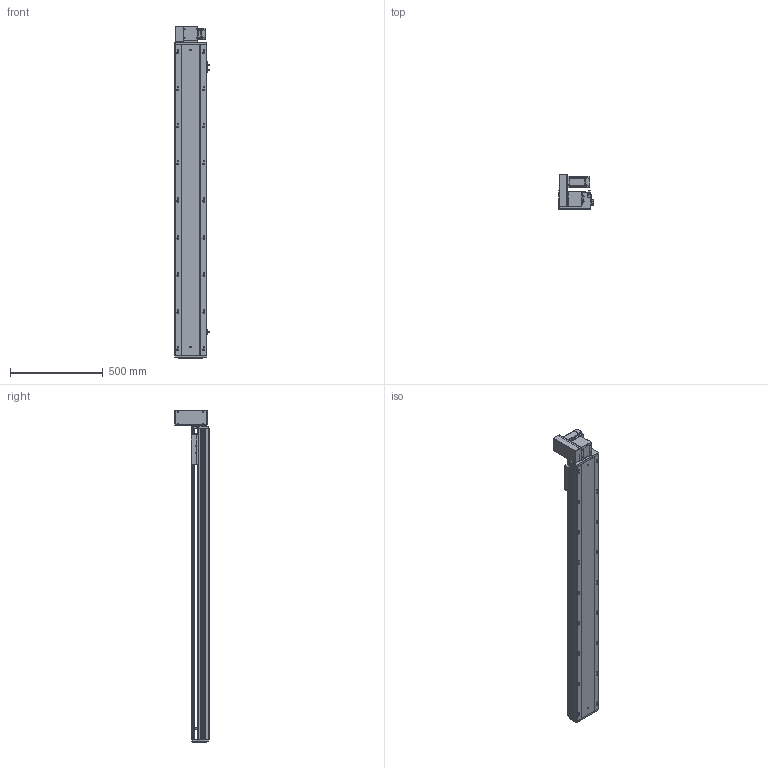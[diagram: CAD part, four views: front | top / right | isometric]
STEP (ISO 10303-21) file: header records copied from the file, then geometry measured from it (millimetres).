
FILE_DESCRIPTION (( 'STEP AP203' ), '1' );
FILE_NAME ('RY170-T-300-UL-P400W.SLDASM_1400.step', '2021-03-02T02:13:26', ( '盈信电脑' ), ( '东莞市道滘镇水果街19号' ), 'SwSTEP 2.0', 'SolidWorks 2012', '' );
FILE_SCHEMA (( 'CONFIG_CONTROL_DESIGN' ));
Length unit declared in the file: millimetre
Products named in the file (18): RY170-T肮祭湍揤踡輸1; 15; RY170-T-300-UL-P400W.SLDASM_1400; RY170-T蹟翐M4; RY170同步轮电机安装板(400W); 滅袉蝶18-10; RY170肮祭謫萇儂欶; RY120-T主同步轮轴承压盖; RY170-T肮祭湍揤踡輸2; RY170-T肮祭謫裔啣; RY170外置感应片(200共用）; RY170肮祭謫ヶ裔啣; RY170翋肮祭謫釱; 覜茼ん672; RY170綴裔啣; RY170-T-300肮祭謫倰第裔啣-DL_1400; RY170肮祭湍臏賑輸; RY170-T-300肮祭謫倰第菁釱-DL_1400
Assembly tree (20 placements, depth 2):
  RY170-T-300-UL-P400W.SLDASM_1400
    RY170-T-300肮祭謫倰第菁釱-DL_1400
    RY170肮祭湍臏賑輸
    RY170-T-300肮祭謫倰第裔啣-DL_1400
    RY170綴裔啣
    覜茼ん672  x3
    RY170外置感应片(200共用）
    RY170肮祭謫ヶ裔啣
    RY170翋肮祭謫釱
    RY170-T肮祭湍揤踡輸1
    RY170-T肮祭湍揤踡輸2
    RY170-T肮祭謫裔啣
    滅袉蝶18-10  x2
    RY120-T主同步轮轴承压盖
    RY170肮祭謫萇儂欶
    RY170同步轮电机安装板(400W)
    RY170-T蹟翐M4
    15
Bounding box: 183.7 x 184 x 1788 mm (x, y, z)
Volume: 8548015.1 mm3; surface area: 2912647.1 mm2
Topology: 20 solids, 20 shells, 2669 faces, 7462 edges, 4763 vertices
Faces by surface type: cylinder 1226, plane 1149, cone 264, bspline 30
Entity records: 85360 total; most frequent: CARTESIAN_POINT 19266, ORIENTED_EDGE 13512, DIRECTION 13258, EDGE_CURVE 6756, AXIS2_PLACEMENT_3D 4677, VERTEX_POINT 4431, VECTOR 3904, LINE 3904
